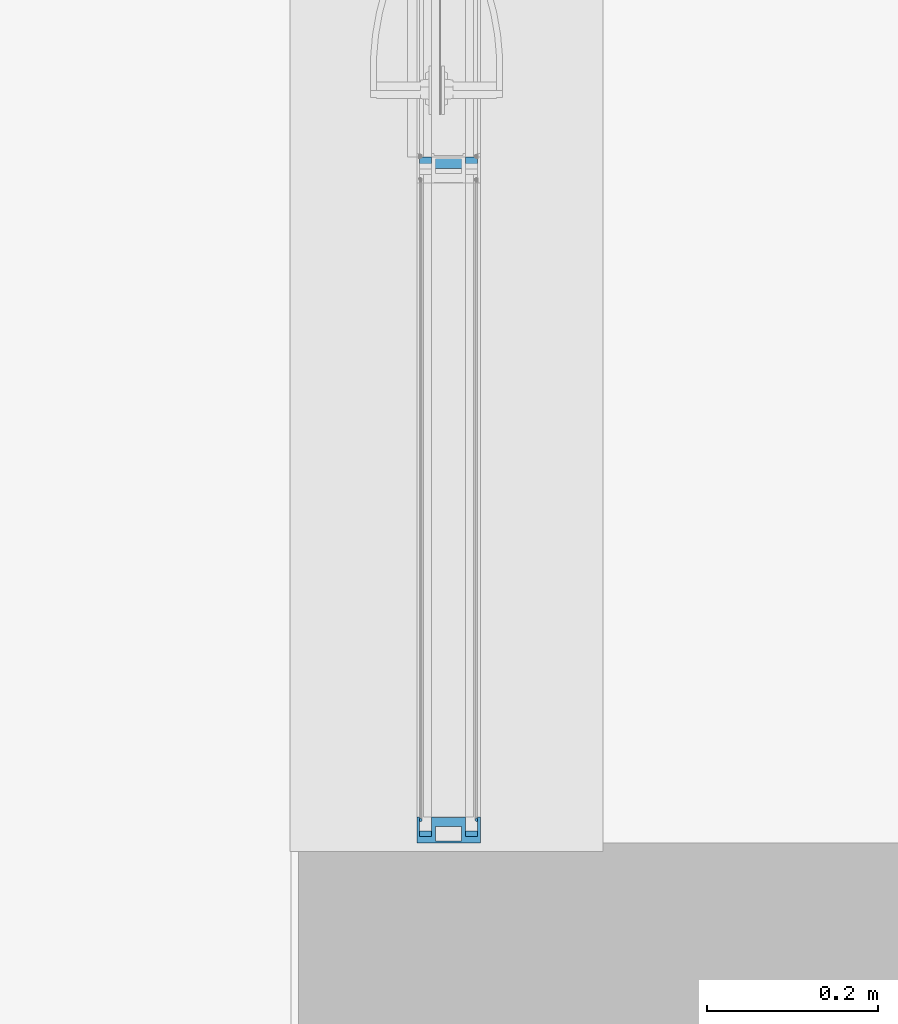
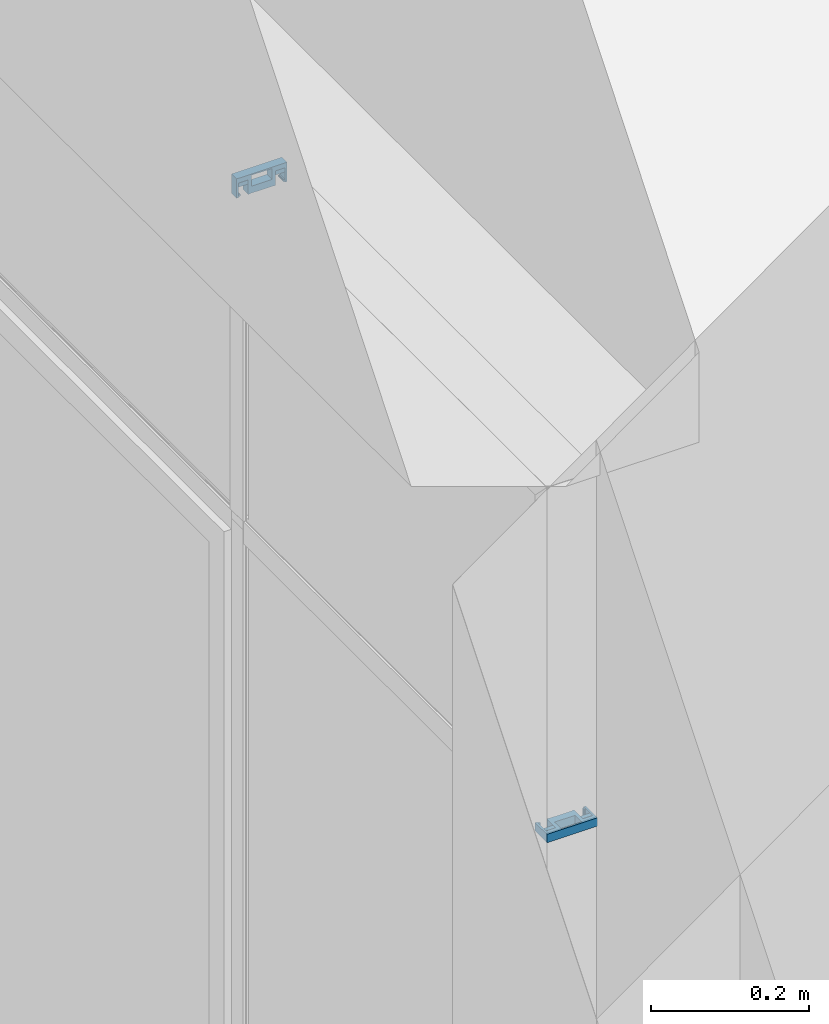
# One storey, part 36 of 89: 4 building element parts, 3 elements without a shape of their own.
"""IFC2X3 building model written with IfcOpenShell, lengths in millimetres."""

from ifc_helpers import new_model, entity, si_unit, converted_unit, derived_unit, money_unit, direction, frame, origin_with_axes, place, context, subcontext, project, spatial, faceted_brep, source, transform, mapped, material, type_object, element, aggregate, save


model = new_model("IFC2X3")

# Units and contexts
model_context = context("Model", 3, precision=0.01, world=origin_with_axes(), true_north=direction((0.0, 1.0)))
body_context = subcontext(model_context, "Body", "Model", "MODEL_VIEW")
ifc_project = project(units=[si_unit("LENGTHUNIT", "METRE", prefix="MILLI"), si_unit("AREAUNIT", "SQUARE_METRE"), si_unit("VOLUMEUNIT", "CUBIC_METRE"), converted_unit("PLANEANGLEUNIT", "DEGREE", entity("IfcPlaneAngleMeasure", 0.0174532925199), si_unit("PLANEANGLEUNIT", "RADIAN"), dimensions=[0, 0, 0, 0, 0, 0, 0]), si_unit("SOLIDANGLEUNIT", "STERADIAN"), money_unit("EUR"), converted_unit("TIMEUNIT", "Year", entity("IfcTimeMeasure", 31556926.0), si_unit("TIMEUNIT", "SECOND"), dimensions=[0, 0, 1, 0, 0, 0, 0]), si_unit("MASSUNIT", "GRAM", prefix="KILO"), si_unit("THERMODYNAMICTEMPERATUREUNIT", "DEGREE_CELSIUS"), si_unit("LUMINOUSINTENSITYUNIT", "LUMEN"), si_unit("ENERGYUNIT", "JOULE", prefix="MEGA"), derived_unit("THERMALCONDUCTANCEUNIT", [(si_unit("POWERUNIT", "WATT"), 1), (si_unit("LENGTHUNIT", "METRE"), -1), (si_unit("THERMODYNAMICTEMPERATUREUNIT", "KELVIN"), -1)]), derived_unit("SPECIFICHEATCAPACITYUNIT", [(si_unit("ENERGYUNIT", "JOULE"), 1), (si_unit("MASSUNIT", "GRAM", prefix="KILO"), -1), (si_unit("THERMODYNAMICTEMPERATUREUNIT", "KELVIN"), -1)]), derived_unit("MASSDENSITYUNIT", [(si_unit("MASSUNIT", "GRAM", prefix="KILO"), 1), (si_unit("VOLUMEUNIT", "CUBIC_METRE"), -1)])], contexts=[model_context])

# Site, building, storey
site_placement = place(None, origin_with_axes())
site = spatial("IfcSite", under=ifc_project, at=site_placement, Name="Puškini 31, Narva", CompositionType="ELEMENT")
building_placement = place(site_placement, origin_with_axes())
building = spatial("IfcBuilding", under=site, at=building_placement, Name="Narva Riigigümnaasium", CompositionType="ELEMENT")
storey_placement = place(building_placement, frame((0.0, 0.0, -3300.0), z_axis=(0.0, 0.0, 1.0), x_axis=(1.0, 0.0, 0.0)))
storey = spatial("IfcBuildingStorey", under=building, at=storey_placement, Name="1.korrus -3.3", CompositionType="ELEMENT", Elevation=-3300.0)

# Curtain wall, members, building element parts
curtain_wall_type = type_object("IfcCurtainWallType", Name="Curtain Wall Type", PredefinedType="NOTDEFINED")
curtain_wall_placement = place(storey_placement, frame((47675.0000001, 242632.20006, -3.78005973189e-05), z_axis=(0.0, 0.0, 1.0), x_axis=(1.0, 0.0, 0.0)))
curtain_wall = element("IfcCurtainWall", 1, at=curtain_wall_placement, inside=storey, type_object=curtain_wall_type, Name="G-SKLF-10")
member_type = type_object("IfcMemberType", Name="30 x 37", PredefinedType="MULLION")
member_1_placement = place(curtain_wall_placement, frame((0.0, -472.200003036, 2400.0000378), z_axis=(0.0, 0.0, 1.0), x_axis=(0.0, 1.0, 0.0)))
member_1 = element("IfcMember", 2, at=member_1_placement, type_object=member_type, Name="G-SKLF-10-raam", ObjectType="MULLION")
ifc_material_1 = material(Name="Klaasvill")
shared_shape_1 = source(origin_with_axes(), body_context, "Body", "Brep", [
    faceted_brep([(7.49999990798, 20.000000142, 0.0), (13.8499999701, 20.000000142, 0.0), (13.8499999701, 20.000000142, 12.9999942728), (7.49999990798, 20.000000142, 12.9999942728), (7.49999990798, 34.0161444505, 0.0), (13.8499999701, 34.0161444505, 0.0), (13.8499999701, 34.0161444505, 12.9999942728), (7.49999990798, 34.0161444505, 12.9999942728)], [[[0, 1, 2, 3]], [[0, 4, 5, 1]], [[1, 5, 6, 2]], [[3, 2, 6, 7]], [[4, 0, 3, 7]], [[5, 4, 7, 6]]]),
    faceted_brep([(24.987414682, 34.0161444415, 0.0), (25.004489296, 32.0307503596, 0.0), (25.004489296, 32.0307503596, 12.9999942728), (24.987414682, 34.0161444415, 12.9999942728), (28.5126239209, 34.0161444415, 0.0), (28.7655837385, 33.0385325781, 0.0), (28.4955493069, 32.0307503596, 0.0), (27.75780152, 31.2930025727, 0.0), (26.7500193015, 31.0229681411, 0.0), (25.742237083, 31.2930025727, 0.0), (25.742237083, 31.2930025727, 12.9999942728), (26.7500193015, 31.0229681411, 12.9999942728), (27.75780152, 31.2930025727, 12.9999942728), (28.4955493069, 32.0307503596, 12.9999942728), (28.7655837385, 33.0385325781, 12.9999942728), (28.5126239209, 34.0161444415, 12.9999942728)], [[[0, 1, 2, 3]], [[0, 4, 5, 6, 7, 8, 9, 1]], [[1, 9, 10, 2]], [[3, 2, 10, 11, 12, 13, 14, 15]], [[4, 0, 3, 15]], [[5, 4, 15, 14]], [[6, 5, 14, 13]], [[7, 6, 13, 12]], [[8, 7, 12, 11]], [[9, 8, 11, 10]]]),
    faceted_brep([(7.49999990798, -19.9999997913, 0.0), (7.49999990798, -34.0161445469, 0.0), (7.49999990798, -34.0161445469, 12.9999942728), (7.49999990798, -19.9999997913, 12.9999942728), (13.8499999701, -19.9999997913, 0.0), (13.8499999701, -34.0161445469, 0.0), (13.8499999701, -34.0161445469, 12.9999942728), (13.8499999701, -19.9999997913, 12.9999942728)], [[[0, 1, 2, 3]], [[0, 4, 5, 1]], [[1, 5, 6, 2]], [[3, 2, 6, 7]], [[4, 0, 3, 7]], [[5, 4, 7, 6]]]),
    faceted_brep([(25.004489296, -32.0307503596, 0.0), (24.987414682, -34.0161444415, 0.0), (24.987414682, -34.0161444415, 12.9999942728), (25.004489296, -32.0307503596, 12.9999942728), (25.742237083, -31.2930025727, 0.0), (26.7500193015, -31.0229681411, 0.0), (27.75780152, -31.2930025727, 0.0), (28.4955493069, -32.0307503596, 0.0), (28.7655837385, -33.0385325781, 0.0), (28.5126239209, -34.0161444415, 0.0), (28.5126239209, -34.0161444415, 12.9999942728), (28.7655837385, -33.0385325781, 12.9999942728), (28.4955493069, -32.0307503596, 12.9999942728), (27.75780152, -31.2930025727, 12.9999942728), (26.7500193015, -31.0229681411, 12.9999942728), (25.742237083, -31.2930025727, 12.9999942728)], [[[0, 1, 2, 3]], [[0, 4, 5, 6, 7, 8, 9, 1]], [[1, 9, 10, 2]], [[3, 2, 10, 11, 12, 13, 14, 15]], [[4, 0, 3, 15]], [[5, 4, 15, 14]], [[6, 5, 14, 13]], [[7, 6, 13, 12]], [[8, 7, 12, 11]], [[9, 8, 11, 10]]]),
])
building_element_part_1_placement = place(member_1_placement, origin_with_axes())
building_element_part_1 = element("IfcBuildingElementPart", 3, at=building_element_part_1_placement, material=ifc_material_1, Name="Klaasvill", context=body_context, shape_type="MappedRepresentation", body=[
    mapped(shared_shape_1, transform((0.0, 0.0, 0.0))),
])
member_2_placement = place(curtain_wall_placement, frame((0.0, 314.800002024, 2949.99999283), z_axis=(0.0, 1.0, 0.0), x_axis=(0.0, 0.0, -1.0)))
member_2 = element("IfcMember", 4, at=member_2_placement, type_object=member_type, Name="G-SKLF-10-raam", ObjectType="MULLION")
aggregate(curtain_wall, [member_1, member_2])
building_element_part_2_placement = place(member_2_placement, origin_with_axes())
building_element_part_2 = element("IfcBuildingElementPart", 5, at=building_element_part_2_placement, material=ifc_material_1, Name="Klaasvill", context=body_context, shape_type="MappedRepresentation", body=[
    mapped(shared_shape_1, transform((0.0, 0.0, 0.0))),
])
ifc_material_2 = material(Name="Teras RAL7012")
shared_shape_2 = source(origin_with_axes(), body_context, "Body", "Brep", [
    faceted_brep([(0.0, -17.0000000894, 0.0), (29.5999996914, -17.0000000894, 0.0), (29.5999996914, -17.0000000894, 12.9999942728), (0.0, -17.0000000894, 12.9999942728), (0.0, 17.0000000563, 0.0), (29.5999996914, 17.0000000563, 0.0), (1.9999999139, 15.0000001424, 0.0), (1.9999999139, -15.0000001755, 0.0), (18.7999996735, -15.0000001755, 0.0), (18.7999996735, 15.0000001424, 0.0), (29.5999996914, 17.0000000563, 12.9999942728), (0.0, 17.0000000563, 12.9999942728), (1.9999999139, 15.0000001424, 12.9999942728), (18.7999996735, 15.0000001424, 12.9999942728), (18.7999996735, -15.0000001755, 12.9999942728), (1.9999999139, -15.0000001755, 12.9999942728)], [[[0, 1, 2, 3]], [[0, 4, 5, 1], [6, 7, 8, 9]], [[1, 5, 10, 2]], [[3, 2, 10, 11], [12, 13, 14, 15]], [[4, 0, 3, 11]], [[5, 4, 11, 10]], [[7, 6, 12, 15]], [[8, 7, 15, 14]], [[9, 8, 14, 13]], [[6, 9, 13, 12]]]),
    faceted_brep([(0.0, 17.0, 0.0), (29.5999996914, 17.0000000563, 0.0), (29.5999996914, 17.0000000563, 12.9999942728), (0.0, 17.0, 12.9999942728), (0.0, 37.0, 0.0), (30.0000193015, 37.0, 0.0), (30.0000193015, 34.0161444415, 0.0), (28.5126239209, 34.0161444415, 0.0), (24.987414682, 34.0161444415, 0.0), (13.8499999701, 34.0161444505, 0.0), (7.49999999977, 34.0161444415, 0.0), (7.49999999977, 20.0, 0.0), (13.8499999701, 20.000000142, 0.0), (30.0000193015, 20.0, 0.0), (30.0000193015, 17.0, 0.0), (30.0000193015, 17.0, 12.9999942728), (30.0000193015, 20.0, 12.9999942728), (13.8499999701, 20.000000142, 12.9999942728), (7.49999999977, 20.0, 12.9999942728), (7.49999999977, 34.0161444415, 12.9999942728), (13.8499999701, 34.0161444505, 12.9999942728), (24.987414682, 34.0161444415, 12.9999942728), (28.5126239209, 34.0161444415, 12.9999942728), (30.0000193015, 34.0161444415, 12.9999942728), (30.0000193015, 37.0, 12.9999942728), (0.0, 37.0, 12.9999942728)], [[[0, 1, 2, 3]], [[0, 4, 5, 6, 7, 8, 9, 10, 11, 12, 13, 14, 1]], [[1, 14, 15, 2]], [[3, 2, 15, 16, 17, 18, 19, 20, 21, 22, 23, 24, 25]], [[4, 0, 3, 25]], [[5, 4, 25, 24]], [[6, 5, 24, 23]], [[7, 6, 23, 22]], [[8, 7, 22, 21]], [[9, 8, 21, 20]], [[10, 9, 20, 19]], [[11, 10, 19, 18]], [[12, 11, 18, 17]], [[13, 12, 17, 16]], [[14, 13, 16, 15]]]),
    faceted_brep([(0.0, -17.0, 0.0), (0.0, -37.0, 0.0), (0.0, -37.0, 12.9999942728), (0.0, -17.0, 12.9999942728), (29.5999996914, -17.0000000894, 0.0), (30.0000193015, -17.0, 0.0), (30.0000193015, -20.0, 0.0), (13.8499999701, -19.9999997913, 0.0), (7.49999999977, -20.0, 0.0), (7.49999999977, -34.0161444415, 0.0), (13.8499999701, -34.0161445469, 0.0), (24.987414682, -34.0161444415, 0.0), (28.5126239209, -34.0161444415, 0.0), (30.0000193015, -34.0161444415, 0.0), (30.0000193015, -37.0, 0.0), (30.0000193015, -37.0, 12.9999942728), (30.0000193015, -34.0161444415, 12.9999942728), (28.5126239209, -34.0161444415, 12.9999942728), (24.987414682, -34.0161444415, 12.9999942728), (13.8499999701, -34.0161445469, 12.9999942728), (7.49999999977, -34.0161444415, 12.9999942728), (7.49999999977, -20.0, 12.9999942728), (13.8499999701, -19.9999997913, 12.9999942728), (30.0000193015, -20.0, 12.9999942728), (30.0000193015, -17.0, 12.9999942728), (29.5999996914, -17.0000000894, 12.9999942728)], [[[0, 1, 2, 3]], [[0, 4, 5, 6, 7, 8, 9, 10, 11, 12, 13, 14, 1]], [[1, 14, 15, 2]], [[3, 2, 15, 16, 17, 18, 19, 20, 21, 22, 23, 24, 25]], [[4, 0, 3, 25]], [[5, 4, 25, 24]], [[6, 5, 24, 23]], [[7, 6, 23, 22]], [[8, 7, 22, 21]], [[9, 8, 21, 20]], [[10, 9, 20, 19]], [[11, 10, 19, 18]], [[12, 11, 18, 17]], [[13, 12, 17, 16]], [[14, 13, 16, 15]]]),
])
building_element_part_3_placement = place(member_1_placement, origin_with_axes())
building_element_part_3 = element("IfcBuildingElementPart", 6, at=building_element_part_3_placement, material=ifc_material_2, Name="Teras RAL7012", context=body_context, shape_type="MappedRepresentation", body=[
    mapped(shared_shape_2, transform((0.0, 0.0, 0.0))),
])
aggregate(member_1, [building_element_part_1, building_element_part_3])
building_element_part_4_placement = place(member_2_placement, origin_with_axes())
building_element_part_4 = element("IfcBuildingElementPart", 7, at=building_element_part_4_placement, material=ifc_material_2, Name="Teras RAL7012", context=body_context, shape_type="MappedRepresentation", body=[
    mapped(shared_shape_2, transform((0.0, 0.0, 0.0))),
])
aggregate(member_2, [building_element_part_2, building_element_part_4])

save(model, "model.ifc")
